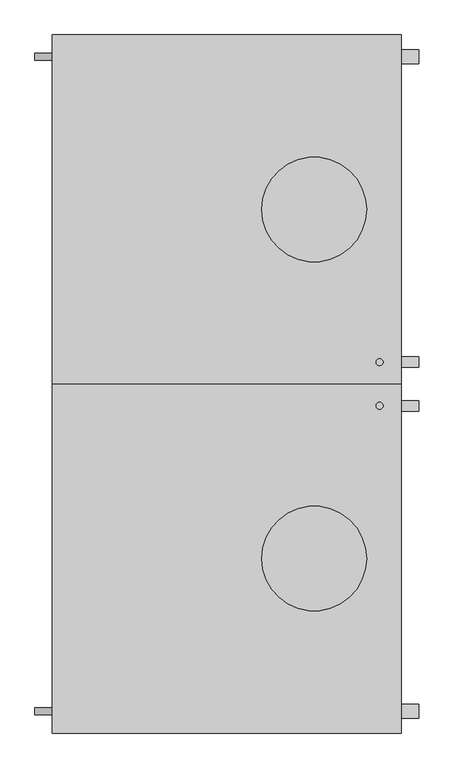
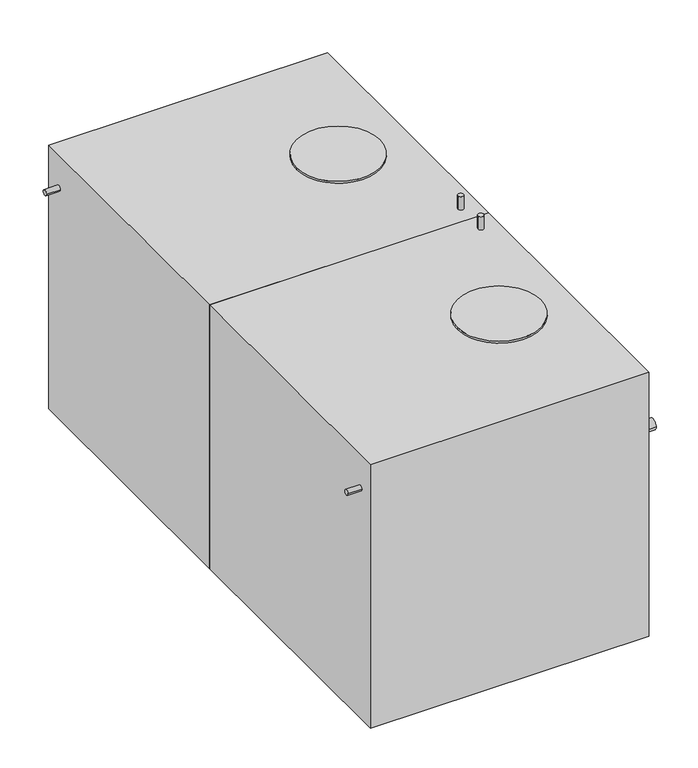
"""IFC4 building model written with IfcOpenShell, lengths in millimetres: sanitary terminal geometry, 04020_TW_水槽 : 上水_受水槽."""

from ifc_helpers import new_model, si_unit, point, frame, frame_2d, origin, place, context, project, spatial, polyline, circle_curve, trimmed, segment, composite_curve, outline, extrude, source, transform, mapped, element, save


def sanitary_terminal_f606fff4(model_context):
    return source(origin(), model_context, "Body", "SweptSolid", [
        extrude(outline(composite_curve([segment(trimmed(circle_curve(frame_2d((500.0, 2000.0)), 300.0), [point((200.0, 2000.0))], [point((800.0, 2000.0))], False, "CARTESIAN"), True, "CONTINUOUS"), segment(trimmed(circle_curve(frame_2d((500.0, 2000.0)), 300.0), [point((800.0, 2000.0))], [point((200.0, 2000.0))], False, "CARTESIAN"), True, "CONTINUOUS")], self_intersect=False)), frame((0.0, 0.0, 2600.0), z_axis=(0.0, 0.0, 1.0), x_axis=(1.0, 0.0, 0.0)), (0.0, 0.0, 1.0), 15.0),
        extrude(outline(composite_curve([segment(trimmed(circle_curve(frame_2d((875.0, 1125.0)), 20.0), [point((855.0, 1125.0))], [point((895.0, 1125.0))], False, "CARTESIAN"), True, "CONTINUOUS"), segment(trimmed(circle_curve(frame_2d((875.0, 1125.0)), 20.0), [point((895.0, 1125.0))], [point((855.0, 1125.0))], False, "CARTESIAN"), True, "CONTINUOUS")], self_intersect=False)), frame((0.0, 0.0, 2600.0), z_axis=(0.0, 0.0, 1.0), x_axis=(1.0, 0.0, 0.0)), (0.0, 0.0, 1.0), 100.0),
        extrude(outline(composite_curve([segment(trimmed(circle_curve(frame_2d((2875.0, 2100.0)), 40.0), [point((2835.0, 2100.0))], [point((2915.0, 2100.0))], False, "CARTESIAN"), True, "CONTINUOUS"), segment(trimmed(circle_curve(frame_2d((2875.0, 2100.0)), 40.0), [point((2915.0, 2100.0))], [point((2835.0, 2100.0))], False, "CARTESIAN"), True, "CONTINUOUS")], self_intersect=False)), frame((1000.0, 0.0, 0.0), z_axis=(1.0, 0.0, 0.0), x_axis=(0.0, 1.0, 0.0)), (0.0, 0.0, 1.0), 100.0),
        extrude(outline(composite_curve([segment(trimmed(circle_curve(frame_2d((2875.0, 2350.0)), 20.0), [point((2895.0, 2350.0))], [point((2855.0, 2350.0))], False, "CARTESIAN"), True, "CONTINUOUS"), segment(trimmed(circle_curve(frame_2d((2875.0, 2350.0)), 20.0), [point((2855.0, 2350.0))], [point((2895.0, 2350.0))], False, "CARTESIAN"), True, "CONTINUOUS")], self_intersect=False)), frame((-1100.0, 0.0, 0.0), z_axis=(1.0, 0.0, 0.0), x_axis=(0.0, 1.0, 0.0)), (0.0, 0.0, 1.0), 100.0),
        extrude(outline(composite_curve([segment(trimmed(circle_curve(frame_2d((1125.0, 850.0)), 30.0), [point((1095.0, 850.0))], [point((1155.0, 850.0))], False, "CARTESIAN"), True, "CONTINUOUS"), segment(trimmed(circle_curve(frame_2d((1125.0, 850.0)), 30.0), [point((1155.0, 850.0))], [point((1095.0, 850.0))], False, "CARTESIAN"), True, "CONTINUOUS")], self_intersect=False)), frame((1000.0, 0.0, 0.0), z_axis=(1.0, 0.0, 0.0), x_axis=(0.0, 1.0, 0.0)), (0.0, 0.0, 1.0), 100.0),
        extrude(outline(composite_curve([segment(trimmed(circle_curve(frame_2d((-875.0, 2100.0)), 40.0), [point((-915.0, 2100.0))], [point((-835.0, 2100.0))], False, "CARTESIAN"), True, "CONTINUOUS"), segment(trimmed(circle_curve(frame_2d((-875.0, 2100.0)), 40.0), [point((-835.0, 2100.0))], [point((-915.0, 2100.0))], False, "CARTESIAN"), True, "CONTINUOUS")], self_intersect=False)), frame((1000.0, 0.0, 0.0), z_axis=(1.0, 0.0, 0.0), x_axis=(0.0, 1.0, 0.0)), (0.0, 0.0, 1.0), 100.0),
        extrude(outline(composite_curve([segment(trimmed(circle_curve(frame_2d((875.0, 850.0)), 30.0), [point((845.0, 850.0))], [point((905.0, 850.0))], False, "CARTESIAN"), True, "CONTINUOUS"), segment(trimmed(circle_curve(frame_2d((875.0, 850.0)), 30.0), [point((905.0, 850.0))], [point((845.0, 850.0))], False, "CARTESIAN"), True, "CONTINUOUS")], self_intersect=False)), frame((1000.0, 0.0, 0.0), z_axis=(1.0, 0.0, 0.0), x_axis=(0.0, 1.0, 0.0)), (0.0, 0.0, 1.0), 100.0),
        extrude(outline(composite_curve([segment(trimmed(circle_curve(frame_2d((-875.0, 2350.0)), 20.0), [point((-855.0, 2350.0))], [point((-895.0, 2350.0))], False, "CARTESIAN"), True, "CONTINUOUS"), segment(trimmed(circle_curve(frame_2d((-875.0, 2350.0)), 20.0), [point((-895.0, 2350.0))], [point((-855.0, 2350.0))], False, "CARTESIAN"), True, "CONTINUOUS")], self_intersect=False)), frame((-1100.0, 0.0, 0.0), z_axis=(1.0, 0.0, 0.0), x_axis=(0.0, 1.0, 0.0)), (0.0, 0.0, 1.0), 100.0),
        extrude(outline(composite_curve([segment(trimmed(circle_curve(frame_2d((875.0, 875.0)), 20.0), [point((855.0, 875.0))], [point((895.0, 875.0))], False, "CARTESIAN"), True, "CONTINUOUS"), segment(trimmed(circle_curve(frame_2d((875.0, 875.0)), 20.0), [point((895.0, 875.0))], [point((855.0, 875.0))], False, "CARTESIAN"), True, "CONTINUOUS")], self_intersect=False)), frame((0.0, 0.0, 2600.0), z_axis=(0.0, 0.0, 1.0), x_axis=(1.0, 0.0, 0.0)), (0.0, 0.0, 1.0), 100.0),
        extrude(outline(composite_curve([segment(trimmed(circle_curve(frame_2d((500.0, 0.0)), 300.0), [point((200.0, 0.0))], [point((800.0, 0.0))], False, "CARTESIAN"), True, "CONTINUOUS"), segment(trimmed(circle_curve(frame_2d((500.0, 0.0)), 300.0), [point((800.0, 0.0))], [point((200.0, 0.0))], False, "CARTESIAN"), True, "CONTINUOUS")], self_intersect=False)), frame((0.0, 0.0, 2600.0), z_axis=(0.0, 0.0, 1.0), x_axis=(1.0, 0.0, 0.0)), (0.0, 0.0, 1.0), 15.0),
        extrude(outline(polyline([(1000.0, 1000.0), (-1000.0, 1000.0), (-1000.0, 3000.0), (1000.0, 3000.0), (1000.0, 1000.0)])), frame((0.0, 0.0, 600.0), z_axis=(0.0, 0.0, 1.0), x_axis=(1.0, 0.0, 0.0)), (0.0, 0.0, 1.0), 2000.0),
        extrude(outline(polyline([(1000.0, -1000.0), (-1000.0, -1000.0), (-1000.0, 1000.0), (1000.0, 1000.0), (1000.0, -1000.0)])), frame((0.0, 0.0, 600.0), z_axis=(0.0, 0.0, 1.0), x_axis=(1.0, 0.0, 0.0)), (0.0, 0.0, 1.0), 2000.0),
    ])


if __name__ == "__main__":
    model = new_model("IFC4")
    model_context = context("Model", 3, world=origin())
    ifc_project = project(units=[si_unit("LENGTHUNIT", "METRE", prefix="MILLI")], contexts=[model_context])
    site = spatial("IfcSite", under=ifc_project)
    building = spatial("IfcBuilding", under=site)
    placement = place(None, origin())
    sanitary_terminal_shape = sanitary_terminal_f606fff4(model_context)
    element("IfcSanitaryTerminal", 1, ObjectType="04020_TW_水槽 : 上水_受水槽", at=placement, inside=building, context=model_context, shape_type="MappedRepresentation", body=[
        mapped(sanitary_terminal_shape, transform((0.0, 0.0, 0.0), x_axis=(1.0, 0.0, 0.0), y_axis=(0.0, 1.0, 0.0), z_axis=(0.0, 0.0, 1.0))),
    ])
    save(model, "model.ifc")
